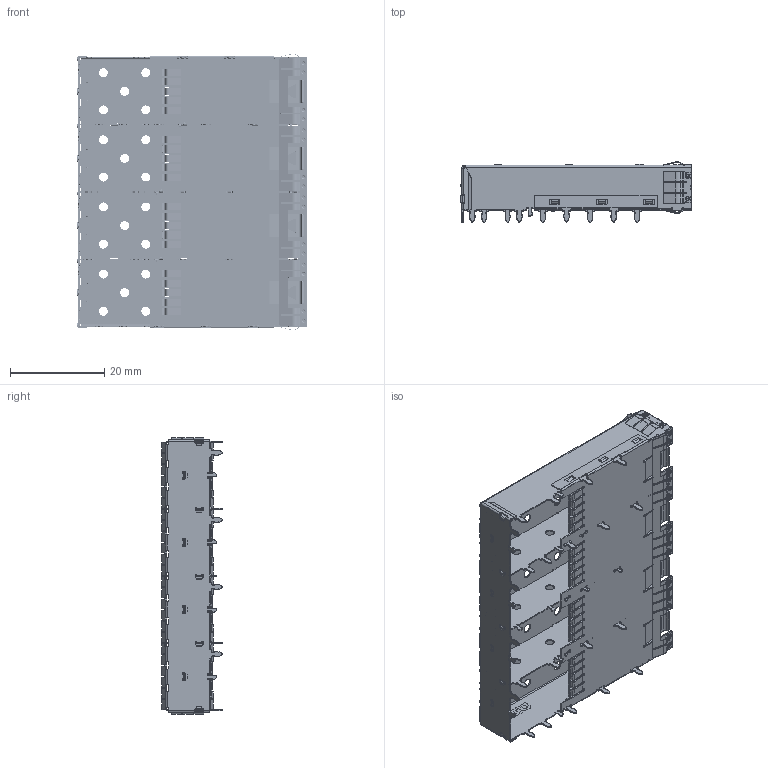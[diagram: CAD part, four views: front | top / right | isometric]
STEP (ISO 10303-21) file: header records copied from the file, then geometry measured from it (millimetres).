
FILE_DESCRIPTION (( 'STEP AP214' ), '1' );
FILE_NAME ('SS40-1000010000-0000-X.STEP', '2021-07-14T03:53:36', ( '' ), ( '' ), 'SwSTEP 2.0', 'SolidWorks 2012', '' );
FILE_SCHEMA (( 'AUTOMOTIVE_DESIGN' ));
Products named in the file (10): SS20-S130-1_2.25-pressfit 5pin-ass''y; SS20-S150_1x4-Top Spring Ass''y; SS40-1000010000-0000-X; SS20-S130-1_pin to pin-ass''y; SS40-S120_spring; SS40-S110-1_2.25-圓孔-ass''y; SS20-S150_1x2-Bottom Spring Ass''y; SS20-S140_1x4 ass''y; SS20-S130-1_2.25-pressfit 4pin-ass''y; SS20-S150_1x1-Side Spring Ass''y
Assembly tree (10 placements, depth 2):
  SS40-1000010000-0000-X
    SS40-S110-1_2.25-圓孔-ass''y
    SS40-S120_spring
    SS20-S130-1_pin to pin-ass''y
    SS20-S130-1_2.25-pressfit 4pin-ass''y
    SS20-S130-1_2.25-pressfit 5pin-ass''y
    SS20-S150_1x4-Top Spring Ass''y
    SS20-S150_1x2-Bottom Spring Ass''y
    SS20-S150_1x1-Side Spring Ass''y  x2
    SS20-S140_1x4 ass''y
Bounding box: 48.97 x 12.8 x 58.75 mm (x, y, z)
Volume: 1884.7 mm3; surface area: 16626.8 mm2
Topology: 10 solids, 10 shells, 5701 faces, 14967 edges, 9266 vertices
Faces by surface type: plane 2803, cylinder 2452, torus 168, sphere 144, bspline 134
Entity records: 178790 total; most frequent: CARTESIAN_POINT 38631, DIRECTION 29968, ORIENTED_EDGE 29384, EDGE_CURVE 14692, AXIS2_PLACEMENT_3D 10647, VERTEX_POINT 9100, VECTOR 8674, LINE 8674
